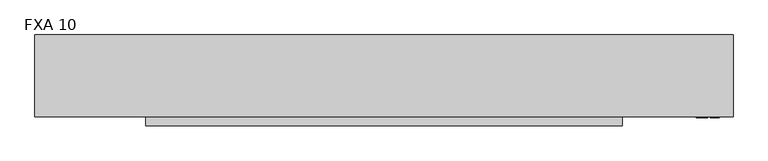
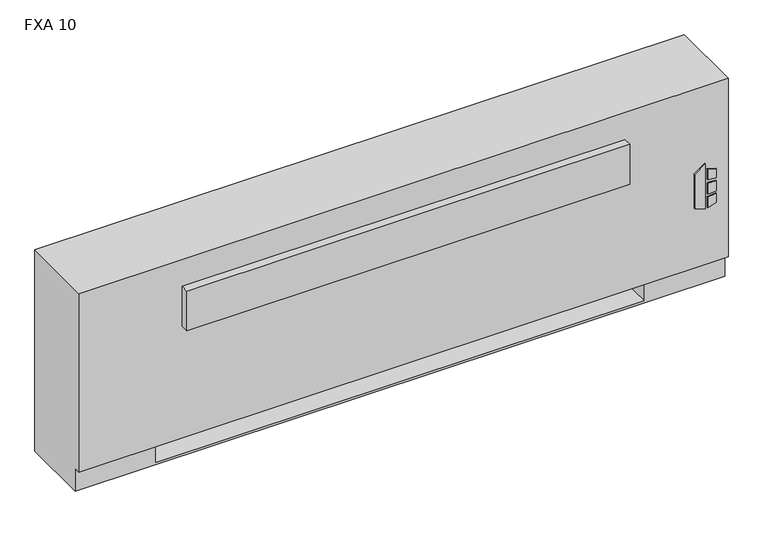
"""IFC4 building model written with IfcOpenShell, lengths in millimetres: proxy geometry, Vertical_Fan_Coil_Unit_-_FXA_-_IEC_-_2-Pipe_FS-FR_LH_2022 : FXA 10."""

from ifc_helpers import new_model, si_unit, point, frame, frame_2d, origin, place, context, project, spatial, polyline, circle_curve, trimmed, segment, composite_curve, outline, extrude, source, transform, mapped, element, save
from ifc_brep_helpers import plane_surface, revolved_surface, advanced_brep


def fxa_10_bdf55f92(model_context):
    return source(origin(), model_context, "Body", "SolidModel", [
        extrude(outline(polyline([(263.9480703, 1027.1868862), (254.0, 1059.3602728), (396.1709244, 1059.3602728), (373.1489183, 1027.1868862), (263.9480703, 1027.1868862)])), frame((0.0, 12.7, 0.0), z_axis=(0.0, 1.0, 0.0), x_axis=(0.0, 0.0, 1.0)), (0.0, 0.0, 1.0), 3.175),
        extrude(outline(polyline([(342.9473557, 1066.1186058), (339.7449632, 1092.2), (368.9738042, 1092.2), (377.0382193, 1066.1186058), (342.9473557, 1066.1186058)])), frame((0.0, 12.7, 0.0), z_axis=(0.0, 1.0, 0.0), x_axis=(0.0, 0.0, 1.0)), (0.0, 0.0, 1.0), 3.175),
        extrude(outline(polyline([(291.0838288, 1092.2), (287.4183279, 1066.1186058), (254.0, 1066.1186058), (262.6342372, 1092.2), (291.0838288, 1092.2)])), frame((0.0, 12.7, 0.0), z_axis=(0.0, 1.0, 0.0), x_axis=(0.0, 0.0, 1.0)), (0.0, 0.0, 1.0), 3.175),
        extrude(outline(polyline([(330.3989903, 1092.2), (332.6808166, 1066.1186058), (296.7432681, 1066.1186058), (299.4845331, 1092.2), (330.3989903, 1092.2)])), frame((0.0, 12.7, 0.0), z_axis=(0.0, 1.0, 0.0), x_axis=(0.0, 0.0, 1.0)), (0.0, 0.0, 1.0), 3.175),
        extrude(outline(polyline([(1009.65, 223.266), (1009.65, 81.534), (889.0, 81.534), (889.0, 223.266), (1009.65, 223.266)])), frame((0.0, 0.0, 327.025), z_axis=(0.0, 0.0, 1.0), x_axis=(1.0, 0.0, 0.0)), (0.0, 0.0, 1.0), 260.35),
        extrude(outline(composite_curve([segment(trimmed(circle_curve(frame_2d((-647.7, 130.175)), 9.525), [point((-657.225, 130.175))], [point((-638.175, 130.175))], False, "CARTESIAN"), True, "CONTINUOUS"), segment(trimmed(circle_curve(frame_2d((-647.7, 130.175)), 9.525), [point((-638.175, 130.175))], [point((-657.225, 130.175))], False, "CARTESIAN"), True, "CONTINUOUS")], self_intersect=False)), frame((0.0, 0.0, 101.6), z_axis=(0.0, 0.0, 1.0), x_axis=(1.0, 0.0, 0.0)), (0.0, 0.0, 1.0), 25.4),
        extrude(outline(polyline([(-749.3, 63.5), (-749.3, 196.85), (-584.2, 196.85), (-584.2, 63.5), (-749.3, 63.5)])), frame((0.0, 0.0, 127.0), z_axis=(0.0, 0.0, 1.0), x_axis=(1.0, 0.0, 0.0)), (0.0, 0.0, 1.0), 50.8),
        extrude(outline(polyline([(819.15, -9.525), (-514.35, -9.525), (-514.35, 15.875), (819.15, 15.875), (819.15, -9.525)])), frame((0.0, 0.0, 428.625), z_axis=(0.0, 0.0, 1.0), x_axis=(1.0, 0.0, 0.0)), (0.0, 0.0, 1.0), 127.0),
        extrude(outline(composite_curve([segment(trimmed(circle_curve(frame_2d((93.1926, 485.5972)), 7.9375), [point((93.1926, 493.5347))], [point((93.1926, 477.6597))], False, "CARTESIAN"), True, "CONTINUOUS"), segment(trimmed(circle_curve(frame_2d((93.1926, 485.5972)), 7.9375), [point((93.1926, 477.6597))], [point((93.1926, 493.5347))], False, "CARTESIAN"), True, "CONTINUOUS")], self_intersect=False)), frame((-635.0, 0.0, 0.0), z_axis=(1.0, 0.0, 0.0), x_axis=(0.0, 1.0, 0.0)), (0.0, 0.0, 1.0), 50.8),
        extrude(outline(composite_curve([segment(trimmed(circle_curve(frame_2d((141.3002, 458.9526)), 7.9375), [point((141.3002, 466.8901))], [point((141.3002, 451.0151))], False, "CARTESIAN"), True, "CONTINUOUS"), segment(trimmed(circle_curve(frame_2d((141.3002, 458.9526)), 7.9375), [point((141.3002, 451.0151))], [point((141.3002, 466.8901))], False, "CARTESIAN"), True, "CONTINUOUS")], self_intersect=False)), frame((-635.0, 0.0, 0.0), z_axis=(1.0, 0.0, 0.0), x_axis=(0.0, 1.0, 0.0)), (0.0, 0.0, 1.0), 50.8),
        advanced_brep(
        [(1130.3, 244.475, 641.35), (-825.5, 244.475, 641.35), (-825.5, 15.875, 641.35), (1130.3, 15.875, 641.35), (-825.5, 244.475, 0.0), (1130.3, 244.475, 0.0), (1130.3, 34.925, 0.0), (-825.5, 34.925, 0.0), (889.0, 244.475, 73.025), (1117.6, 244.475, 73.025), (1117.6, 244.475, 628.65), (889.0, 244.475, 628.65), (889.0, 244.475, 414.8650565), (917.575, 244.475, 414.8650565), (917.575, 244.475, 385.2349435), (889.0, 244.475, 385.2349435), (889.0, 244.475, 287.3375), (917.575, 244.475, 287.3375), (917.575, 244.475, 258.7625), (889.0, 244.475, 258.7625), (889.0, 244.475, 141.2875), (917.575, 244.475, 141.2875), (917.575, 244.475, 112.7125), (889.0, 244.475, 112.7125), (-584.2, 244.475, 628.65), (-812.8, 244.475, 628.65), (-812.8, 244.475, 73.025), (-584.2, 244.475, 73.025), (-584.2, 244.475, 112.7125), (-612.775, 244.475, 112.7125), (-612.775, 244.475, 141.2875), (-584.2, 244.475, 141.2875), (-584.2, 244.475, 258.7625), (-612.775, 244.475, 258.7625), (-612.775, 244.475, 287.3375), (-584.2, 244.475, 287.3375), (-584.2, 244.475, 385.2349435), (-612.775, 244.475, 385.2349435), (-612.775, 244.475, 414.8650565), (-584.2, 244.475, 414.8650565), (907.2626, 244.475, 127.0), (896.1374, 244.475, 127.0), (907.2626, 244.475, 400.05), (896.1374, 244.475, 400.05), (907.2626, 244.475, 273.05), (896.1374, 244.475, 273.05), (-591.3374, 244.475, 127.0), (-602.4626, 244.475, 127.0), (-591.3374, 244.475, 273.05), (-602.4626, 244.475, 273.05), (-591.3374, 244.475, 400.05), (-602.4626, 244.475, 400.05), (-825.5, 34.925, 73.025), (-825.5, 15.875, 73.025), (1130.3, 15.875, 73.025), (1130.3, 34.925, 73.025), (-584.2, 34.925, 73.025), (-584.2, 219.075, 73.025), (889.0, 219.075, 73.025), (889.0, 34.925, 73.025), (889.0, 34.925, 6.35), (-584.2, 34.925, 6.35), (889.0, 41.275, 628.65), (1117.6, 41.275, 628.65), (1117.6, 41.275, 73.025), (889.0, 41.275, 73.025), (-584.2, 41.275, 628.65), (-584.2, 41.275, 73.025), (-812.8, 41.275, 73.025), (-812.8, 41.275, 628.65), (889.0, 219.075, 73.025), (889.0, 238.125, 112.7125), (889.0, 238.125, 141.2875), (889.0, 238.125, 258.7625), (889.0, 238.125, 287.3375), (889.0, 238.125, 385.2349435), (889.0, 238.125, 414.8650565), (-584.2, 219.075, 73.025), (-584.2, 238.125, 414.8650565), (-584.2, 238.125, 385.2349435), (-584.2, 238.125, 287.3375), (-584.2, 238.125, 258.7625), (-584.2, 238.125, 141.2875), (-584.2, 238.125, 112.7125), (-584.2, 219.075, 6.35), (889.0, 219.075, 6.35), (917.575, 238.125, 112.7125), (917.575, 238.125, 141.2875), (896.1374, 238.125, 127.0), (907.2626, 238.125, 127.0), (917.575, 238.125, 258.7625), (917.575, 238.125, 287.3375), (896.1374, 238.125, 273.05), (907.2626, 238.125, 273.05), (917.575, 238.125, 385.2349435), (917.575, 238.125, 414.8650565), (896.1374, 238.125, 400.05), (907.2626, 238.125, 400.05), (-612.775, 238.125, 141.2875), (-612.775, 238.125, 112.7125), (-602.4626, 238.125, 127.0), (-591.3374, 238.125, 127.0), (-612.775, 238.125, 287.3375), (-612.775, 238.125, 258.7625), (-602.4626, 238.125, 273.05), (-591.3374, 238.125, 273.05), (-612.775, 238.125, 414.8650565), (-612.775, 238.125, 385.2349435), (-602.4626, 238.125, 400.05), (-591.3374, 238.125, 400.05)],
        [
            (0, 1),
            (1, 2),
            (2, 3),
            (3, 0),
            (4, 5),
            (5, 6),
            (6, 7),
            (7, 4),
            (0, 5),
            (4, 1),
            (8, 9),
            (9, 10),
            (10, 11),
            (11, 12),
            (12, 13),
            (13, 14),
            (14, 15),
            (15, 16),
            (16, 17),
            (17, 18),
            (18, 19),
            (19, 20),
            (20, 21),
            (21, 22),
            (22, 23),
            (23, 8),
            (24, 25),
            (25, 26),
            (26, 27),
            (27, 28),
            (28, 29),
            (29, 30),
            (30, 31),
            (31, 32),
            (32, 33),
            (33, 34),
            (34, 35),
            (35, 36),
            (36, 37),
            (37, 38),
            (38, 39),
            (39, 24),
            (40, 41, circle_curve(frame((901.7, 244.475, 127.0), z_axis=(0.0, -1.0, 0.0), x_axis=(-1.0, 0.0, 0.0)), 5.5626)),
            (41, 40, circle_curve(frame((901.7, 244.475, 127.0), z_axis=(0.0, -1.0, 0.0), x_axis=(-1.0, 0.0, 0.0)), 5.5626)),
            (42, 43, circle_curve(frame((901.7, 244.475, 400.05), z_axis=(0.0, -1.0, 0.0), x_axis=(-1.0, 0.0, 0.0)), 5.5626)),
            (43, 42, circle_curve(frame((901.7, 244.475, 400.05), z_axis=(0.0, -1.0, 0.0), x_axis=(-1.0, 0.0, 0.0)), 5.5626)),
            (44, 45, circle_curve(frame((901.7, 244.475, 273.05), z_axis=(0.0, -1.0, 0.0), x_axis=(-1.0, 0.0, 0.0)), 5.5626)),
            (45, 44, circle_curve(frame((901.7, 244.475, 273.05), z_axis=(0.0, -1.0, 0.0), x_axis=(-1.0, 0.0, 0.0)), 5.5626)),
            (46, 47, circle_curve(frame((-596.9, 244.475, 127.0), z_axis=(0.0, -1.0, 0.0), x_axis=(-1.0, 0.0, 0.0)), 5.5626)),
            (47, 46, circle_curve(frame((-596.9, 244.475, 127.0), z_axis=(0.0, -1.0, 0.0), x_axis=(-1.0, 0.0, 0.0)), 5.5626)),
            (48, 49, circle_curve(frame((-596.9, 244.475, 273.05), z_axis=(0.0, -1.0, 0.0), x_axis=(-1.0, 0.0, 0.0)), 5.5626)),
            (49, 48, circle_curve(frame((-596.9, 244.475, 273.05), z_axis=(0.0, -1.0, 0.0), x_axis=(-1.0, 0.0, 0.0)), 5.5626)),
            (50, 51, circle_curve(frame((-596.9, 244.475, 400.05), z_axis=(0.0, -1.0, 0.0), x_axis=(-1.0, 0.0, 0.0)), 5.5626)),
            (51, 50, circle_curve(frame((-596.9, 244.475, 400.05), z_axis=(0.0, -1.0, 0.0), x_axis=(-1.0, 0.0, 0.0)), 5.5626)),
            (7, 52),
            (52, 53),
            (53, 2),
            (53, 54),
            (54, 3),
            (54, 55),
            (55, 6),
            (52, 56),
            (56, 57),
            (57, 58),
            (58, 59),
            (59, 55),
            (59, 60),
            (60, 61),
            (61, 56),
            (62, 63),
            (63, 64),
            (64, 65),
            (65, 62),
            (66, 67),
            (67, 68),
            (68, 69),
            (69, 66),
            (65, 70),
            (70, 8),
            (23, 71),
            (71, 72),
            (72, 20),
            (19, 73),
            (73, 74),
            (74, 16),
            (15, 75),
            (75, 76),
            (76, 12),
            (11, 62),
            (64, 9),
            (63, 10),
            (69, 25),
            (24, 66),
            (68, 26),
            (67, 77),
            (77, 27),
            (39, 78),
            (78, 79),
            (79, 36),
            (35, 80),
            (80, 81),
            (81, 32),
            (31, 82),
            (82, 83),
            (83, 28),
            (57, 84),
            (84, 85),
            (85, 58),
            (85, 60),
            (84, 61),
            (71, 86),
            (86, 87),
            (87, 72),
            (88, 89, circle_curve(frame((901.7, 238.125, 127.0), z_axis=(0.0, 1.0, 0.0), x_axis=(-1.0, 0.0, 0.0)), 5.5626)),
            (89, 88, circle_curve(frame((901.7, 238.125, 127.0), z_axis=(0.0, 1.0, 0.0), x_axis=(-1.0, 0.0, 0.0)), 5.5626)),
            (73, 90),
            (90, 91),
            (91, 74),
            (92, 93, circle_curve(frame((901.7, 238.125, 273.05), z_axis=(0.0, 1.0, 0.0), x_axis=(-1.0, 0.0, 0.0)), 5.5626)),
            (93, 92, circle_curve(frame((901.7, 238.125, 273.05), z_axis=(0.0, 1.0, 0.0), x_axis=(-1.0, 0.0, 0.0)), 5.5626)),
            (75, 94),
            (94, 95),
            (95, 76),
            (96, 97, circle_curve(frame((901.7, 238.125, 400.05), z_axis=(0.0, 1.0, 0.0), x_axis=(-1.0, 0.0, 0.0)), 5.5626)),
            (97, 96, circle_curve(frame((901.7, 238.125, 400.05), z_axis=(0.0, 1.0, 0.0), x_axis=(-1.0, 0.0, 0.0)), 5.5626)),
            (98, 99),
            (99, 83),
            (82, 98),
            (100, 101, circle_curve(frame((-596.9, 238.125, 127.0), z_axis=(0.0, 1.0, 0.0), x_axis=(-1.0, 0.0, 0.0)), 5.5626)),
            (101, 100, circle_curve(frame((-596.9, 238.125, 127.0), z_axis=(0.0, 1.0, 0.0), x_axis=(-1.0, 0.0, 0.0)), 5.5626)),
            (102, 103),
            (103, 81),
            (80, 102),
            (104, 105, circle_curve(frame((-596.9, 238.125, 273.05), z_axis=(0.0, 1.0, 0.0), x_axis=(-1.0, 0.0, 0.0)), 5.5626)),
            (105, 104, circle_curve(frame((-596.9, 238.125, 273.05), z_axis=(0.0, 1.0, 0.0), x_axis=(-1.0, 0.0, 0.0)), 5.5626)),
            (106, 107),
            (107, 79),
            (78, 106),
            (108, 109, circle_curve(frame((-596.9, 238.125, 400.05), z_axis=(0.0, 1.0, 0.0), x_axis=(-1.0, 0.0, 0.0)), 5.5626)),
            (109, 108, circle_curve(frame((-596.9, 238.125, 400.05), z_axis=(0.0, 1.0, 0.0), x_axis=(-1.0, 0.0, 0.0)), 5.5626)),
            (87, 21),
            (86, 22),
            (91, 17),
            (90, 18),
            (95, 13),
            (94, 14),
            (30, 98),
            (99, 29),
            (34, 102),
            (103, 33),
            (38, 106),
            (107, 37),
            (88, 41),
            (40, 89),
            (96, 43),
            (42, 97),
            (92, 45),
            (44, 93),
            (100, 47),
            (46, 101),
            (104, 49),
            (48, 105),
            (108, 51),
            (50, 109),
        ],
        [
            plane_surface(frame((-825.5, 244.475, 641.35), z_axis=(0.0, 0.0, 1.0), x_axis=(-1.0, 0.0, 0.0))),
            plane_surface(frame((-825.5, 244.475, 0.0), z_axis=(0.0, 0.0, -1.0), x_axis=(1.0, 0.0, 0.0))),
            plane_surface(frame((1130.3, 244.475, 641.35), z_axis=(0.0, 1.0, 0.0), x_axis=(0.0, 0.0, -1.0))),
            plane_surface(frame((-825.5, 244.475, 641.35), z_axis=(-1.0, 0.0, 0.0), x_axis=(0.0, 0.0, -1.0))),
            plane_surface(frame((-825.5, 15.875, 641.35), z_axis=(0.0, -1.0, 0.0), x_axis=(0.0, 0.0, -1.0))),
            plane_surface(frame((1130.3, 15.875, 641.35), z_axis=(1.0, 0.0, 0.0), x_axis=(0.0, 0.0, -1.0))),
            plane_surface(frame((-825.5, 15.875, 73.025), z_axis=(0.0, 0.0, -1.0), x_axis=(1.0, 0.0, 0.0))),
            plane_surface(frame((-825.5, 34.925, 73.025), z_axis=(0.0, -1.0, 0.0), x_axis=(1.0, 0.0, 0.0))),
            plane_surface(frame((889.0, 41.275, 628.65), z_axis=(0.0, 1.0, 0.0), x_axis=(0.0, 0.0, -1.0))),
            plane_surface(frame((889.0, 41.275, 628.65), z_axis=(1.0, 0.0, 0.0), x_axis=(0.0, 1.0, 0.0))),
            plane_surface(frame((889.0, 41.275, 73.025), z_axis=(0.0, 0.0, 1.0), x_axis=(0.0, 1.0, 0.0))),
            plane_surface(frame((1117.6, 41.275, 73.025), z_axis=(-1.0, 0.0, 0.0), x_axis=(0.0, 1.0, 0.0))),
            plane_surface(frame((1117.6, 41.275, 628.65), z_axis=(0.0, 0.0, -1.0), x_axis=(0.0, 1.0, 0.0))),
            plane_surface(frame((-584.2, 41.275, 628.65), z_axis=(0.0, 0.0, -1.0), x_axis=(0.0, 1.0, 0.0))),
            plane_surface(frame((-812.8, 41.275, 628.65), z_axis=(1.0, 0.0, 0.0), x_axis=(0.0, 1.0, 0.0))),
            plane_surface(frame((-812.8, 41.275, 73.025), z_axis=(0.0, 0.0, 1.0), x_axis=(0.0, 1.0, 0.0))),
            plane_surface(frame((-584.2, 41.275, 73.025), z_axis=(-1.0, 0.0, 0.0), x_axis=(0.0, 1.0, 0.0))),
            plane_surface(frame((889.0, 219.075, 73.025), z_axis=(0.0, -1.0, 0.0), x_axis=(0.0, 0.0, -1.0))),
            plane_surface(frame((889.0, 219.075, 73.025), z_axis=(-1.0, 0.0, 0.0), x_axis=(0.0, -1.0, 0.0))),
            plane_surface(frame((889.0, 219.075, 6.35), z_axis=(0.0, 0.0, 1.0), x_axis=(0.0, -1.0, 0.0))),
            plane_surface(frame((-584.2, 219.075, 6.35), z_axis=(1.0, 0.0, 0.0), x_axis=(0.0, -1.0, 0.0))),
            plane_surface(frame((917.575, 238.125, 141.2875), z_axis=(0.0, -1.0, 0.0), x_axis=(-1.0, 0.0, 0.0))),
            plane_surface(frame((889.0, 244.475, 141.2875), z_axis=(0.0, 0.0, 1.0), x_axis=(0.0, -1.0, 0.0))),
            plane_surface(frame((917.575, 244.475, 141.2875), z_axis=(1.0, 0.0, 0.0), x_axis=(0.0, -1.0, 0.0))),
            plane_surface(frame((917.575, 244.475, 112.7125), z_axis=(0.0, 0.0, -1.0), x_axis=(0.0, -1.0, 0.0))),
            plane_surface(frame((889.0, 244.475, 287.3375), z_axis=(0.0, 0.0, 1.0), x_axis=(0.0, -1.0, 0.0))),
            plane_surface(frame((917.575, 244.475, 287.3375), z_axis=(1.0, 0.0, 0.0), x_axis=(0.0, -1.0, 0.0))),
            plane_surface(frame((917.575, 244.475, 258.7625), z_axis=(0.0, 0.0, -1.0), x_axis=(0.0, -1.0, 0.0))),
            plane_surface(frame((889.0, 244.475, 414.8650565), z_axis=(0.0, 0.0, 1.0), x_axis=(0.0, -1.0, 0.0))),
            plane_surface(frame((917.575, 244.475, 414.8650565), z_axis=(1.0, 0.0, 0.0), x_axis=(0.0, -1.0, 0.0))),
            plane_surface(frame((917.575, 244.475, 385.2349435), z_axis=(0.0, 0.0, -1.0), x_axis=(0.0, -1.0, 0.0))),
            plane_surface(frame((-612.775, 244.475, 141.2875), z_axis=(0.0, 0.0, 1.0), x_axis=(0.0, -1.0, 0.0))),
            plane_surface(frame((-584.2, 244.475, 112.7125), z_axis=(0.0, 0.0, -1.0), x_axis=(0.0, -1.0, 0.0))),
            plane_surface(frame((-612.775, 244.475, 112.7125), z_axis=(-1.0, 0.0, 0.0), x_axis=(0.0, -1.0, 0.0))),
            plane_surface(frame((-612.775, 244.475, 287.3375), z_axis=(0.0, 0.0, 1.0), x_axis=(0.0, -1.0, 0.0))),
            plane_surface(frame((-584.2, 244.475, 258.7625), z_axis=(0.0, 0.0, -1.0), x_axis=(0.0, -1.0, 0.0))),
            plane_surface(frame((-612.775, 244.475, 258.7625), z_axis=(-1.0, 0.0, 0.0), x_axis=(0.0, -1.0, 0.0))),
            plane_surface(frame((-612.775, 244.475, 414.8650565), z_axis=(0.0, 0.0, 1.0), x_axis=(0.0, -1.0, 0.0))),
            plane_surface(frame((-584.2, 244.475, 385.2349435), z_axis=(0.0, 0.0, -1.0), x_axis=(0.0, -1.0, 0.0))),
            plane_surface(frame((-612.775, 244.475, 385.2349435), z_axis=(-1.0, 0.0, 0.0), x_axis=(0.0, -1.0, 0.0))),
            revolved_surface(polyline([(896.1374000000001, 238.125, 127.0), (896.1374000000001, 244.475, 127.0)]), (901.7, 244.475, 127.0), (0.0, -1.0, 0.0)),
            revolved_surface(polyline([(896.1374000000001, 238.125, 400.05), (896.1374000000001, 244.475, 400.05)]), (901.7, 244.475, 400.05), (0.0, -1.0, 0.0)),
            revolved_surface(polyline([(896.1374000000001, 238.125, 273.05), (896.1374000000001, 244.475, 273.05)]), (901.7, 244.475, 273.05), (0.0, -1.0, 0.0)),
            revolved_surface(polyline([(-602.4626, 238.125, 127.0), (-602.4626, 244.475, 127.0)]), (-596.9, 244.475, 127.0), (0.0, -1.0, 0.0)),
            revolved_surface(polyline([(-602.4626, 238.125, 273.05), (-602.4626, 244.475, 273.05)]), (-596.9, 244.475, 273.05), (0.0, -1.0, 0.0)),
            revolved_surface(polyline([(-602.4626, 238.125, 400.05), (-602.4626, 244.475, 400.05)]), (-596.9, 244.475, 400.05), (0.0, -1.0, 0.0)),
        ],
        [
            (0, [[1, 2, 3, 4]]),
            (1, [[5, 6, 7, 8]]),
            (2, [[-1, 9, -5, 10], [11, 12, 13, 14, 15, 16, 17, 18, 19, 20, 21, 22, 23, 24, 25, 26], [27, 28, 29, 30, 31, 32, 33, 34, 35, 36, 37, 38, 39, 40, 41, 42], [43, 44], [45, 46], [47, 48], [49, 50], [51, 52], [53, 54]]),
            (3, [[-2, -10, -8, 55, 56, 57]]),
            (4, [[-3, -57, 58, 59]]),
            (5, [[-4, -59, 60, 61, -6, -9]]),
            (6, [[-56, 62, 63, 64, 65, 66, -60, -58]]),
            (7, [[-7, -61, -66, 67, 68, 69, -62, -55]]),
            (8, [[70, 71, 72, 73]]),
            (8, [[74, 75, 76, 77]]),
            (9, [[-73, 78, 79, -26, 80, 81, 82, -22, 83, 84, 85, -18, 86, 87, 88, -14, 89]]),
            (10, [[-72, 90, -11, -79, -78]]),
            (11, [[-71, 91, -12, -90]]),
            (12, [[-70, -89, -13, -91]]),
            (13, [[-77, 92, -27, 93]]),
            (14, [[-76, 94, -28, -92]]),
            (15, [[-75, 95, 96, -29, -94]]),
            (16, [[-74, -93, -42, 97, 98, 99, -38, 100, 101, 102, -34, 103, 104, 105, -30, -96, -95]]),
            (17, [[-64, 106, 107, 108]]),
            (18, [[-108, 109, -67, -65]]),
            (19, [[-107, 110, -68, -109]]),
            (20, [[-106, -63, -69, -110]]),
            (21, [[111, 112, 113, -81], [114, 115]]),
            (21, [[116, 117, 118, -84], [119, 120]]),
            (21, [[121, 122, 123, -87], [124, 125]]),
            (21, [[126, 127, -104, 128], [129, 130]]),
            (21, [[131, 132, -101, 133], [134, 135]]),
            (21, [[136, 137, -98, 138], [139, 140]]),
            (22, [[-113, 141, -23, -82]]),
            (23, [[-112, 142, -24, -141]]),
            (24, [[-111, -80, -25, -142]]),
            (25, [[-118, 143, -19, -85]]),
            (26, [[-117, 144, -20, -143]]),
            (27, [[-116, -83, -21, -144]]),
            (28, [[-123, 145, -15, -88]]),
            (29, [[-122, 146, -16, -145]]),
            (30, [[-121, -86, -17, -146]]),
            (31, [[-128, -103, -33, 147]]),
            (32, [[-127, 148, -31, -105]]),
            (33, [[-126, -147, -32, -148]]),
            (34, [[-133, -100, -37, 149]]),
            (35, [[-132, 150, -35, -102]]),
            (36, [[-131, -149, -36, -150]]),
            (37, [[-138, -97, -41, 151]]),
            (38, [[-137, 152, -39, -99]]),
            (39, [[-136, -151, -40, -152]]),
            (40, [[153, -43, 154, -114]]),
            (40, [[-153, -115, -154, -44]]),
            (41, [[155, -45, 156, -124]]),
            (41, [[-155, -125, -156, -46]]),
            (42, [[157, -47, 158, -119]]),
            (42, [[-157, -120, -158, -48]]),
            (43, [[159, -49, 160, -129]]),
            (43, [[-159, -130, -160, -50]]),
            (44, [[161, -51, 162, -134]]),
            (44, [[-161, -135, -162, -52]]),
            (45, [[163, -53, 164, -139]]),
            (45, [[-163, -140, -164, -54]]),
        ],
    ),
    ])


if __name__ == "__main__":
    model = new_model("IFC4")
    model_context = context("Model", 3, world=origin())
    ifc_project = project(units=[si_unit("LENGTHUNIT", "METRE", prefix="MILLI")], contexts=[model_context])
    site = spatial("IfcSite", under=ifc_project)
    building = spatial("IfcBuilding", under=site)
    placement = place(None, origin())
    fxa_10_shape = fxa_10_bdf55f92(model_context)
    element("IfcBuildingElementProxy", 1, Name="Vertical_Fan_Coil_Unit_-_FXA_-_IEC_-_2-Pipe_FS-FR_LH_2022 : FXA 10", ObjectType="Vertical_Fan_Coil_Unit_-_FXA_-_IEC_-_2-Pipe_FS-FR_LH_2022 : FXA 10", at=placement, inside=building, context=model_context, shape_type="MappedRepresentation", body=[
        mapped(fxa_10_shape, transform((0.0, 0.0, 0.0), x_axis=(1.0, 0.0, 0.0), y_axis=(0.0, 1.0, 0.0), z_axis=(0.0, 0.0, 1.0))),
    ])
    save(model, "model.ifc")
